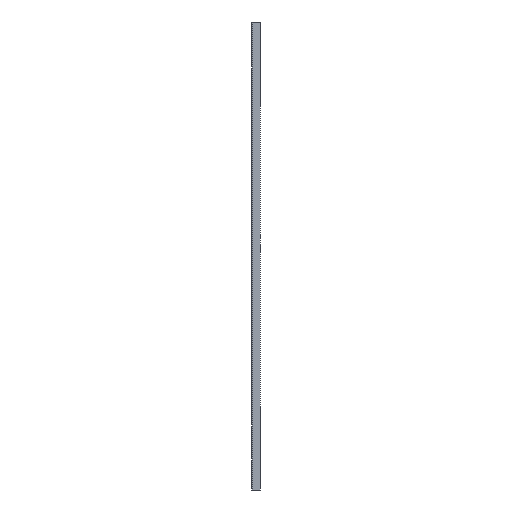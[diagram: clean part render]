
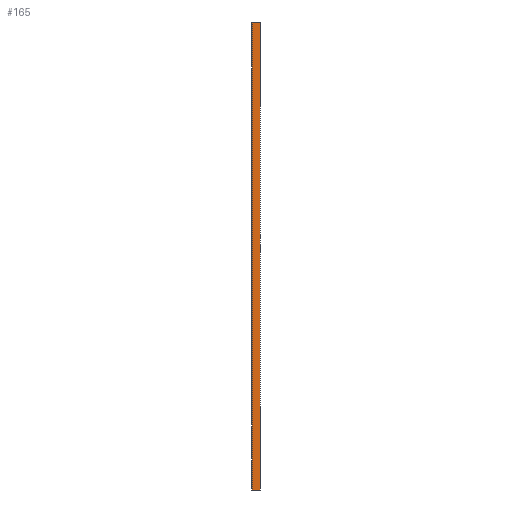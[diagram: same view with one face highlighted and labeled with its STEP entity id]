
A CAD part, left-side view. The second image highlights one B-rep face of the part: STEP entity #165.
In plain terms, the highlighted planar face has unit normal (-1, 0, 0).
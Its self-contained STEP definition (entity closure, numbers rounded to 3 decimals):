
#8 = DIRECTION ( 'NONE',  ( 0., 0., 1. ) ) ;
#12 = VECTOR ( 'NONE', #44, 1000. ) ;
#32 = VECTOR ( 'NONE', #1089, 1000. ) ;
#36 = AXIS2_PLACEMENT_3D ( 'NONE', #951, #788, #8 ) ;
#44 = DIRECTION ( 'NONE',  ( 0., 0., 1. ) ) ;
#47 = LINE ( 'NONE', #741, #32 ) ;
#66 = CARTESIAN_POINT ( 'NONE',  ( -728., -17., 40. ) ) ;
#152 = VECTOR ( 'NONE', #976, 1000. ) ;
#165 = ADVANCED_FACE ( 'NONE', ( #261 ), #441, .T. ) ;
#170 = ORIENTED_EDGE ( 'NONE', *, *, #904, .T. ) ;
#218 = LINE ( 'NONE', #223, #12 ) ;
#223 = CARTESIAN_POINT ( 'NONE',  ( -728., -17., -894. ) ) ;
#227 = CARTESIAN_POINT ( 'NONE',  ( -728., -17., -894. ) ) ;
#244 = VECTOR ( 'NONE', #314, 1000. ) ;
#261 = FACE_OUTER_BOUND ( 'NONE', #293, .T. ) ;
#293 = EDGE_LOOP ( 'NONE', ( #305, #914, #408, #170 ) ) ;
#300 = CARTESIAN_POINT ( 'NONE',  ( -728., 0., -894. ) ) ;
#305 = ORIENTED_EDGE ( 'NONE', *, *, #781, .F. ) ;
#314 = DIRECTION ( 'NONE',  ( 0., 1., 0. ) ) ;
#315 = VERTEX_POINT ( 'NONE', #227 ) ;
#340 = CARTESIAN_POINT ( 'NONE',  ( -728., 0., 40. ) ) ;
#382 = CARTESIAN_POINT ( 'NONE',  ( -728., -17., -894. ) ) ;
#408 = ORIENTED_EDGE ( 'NONE', *, *, #1053, .T. ) ;
#441 = PLANE ( 'NONE',  #36 ) ;
#741 = CARTESIAN_POINT ( 'NONE',  ( -728., -17., 40. ) ) ;
#776 = LINE ( 'NONE', #792, #152 ) ;
#781 = EDGE_CURVE ( 'NONE', #860, #934, #776, .T. ) ;
#788 = DIRECTION ( 'NONE',  ( -1., 0., 0. ) ) ;
#792 = CARTESIAN_POINT ( 'NONE',  ( -728., 0., -894. ) ) ;
#835 = EDGE_CURVE ( 'NONE', #315, #860, #903, .T. ) ;
#860 = VERTEX_POINT ( 'NONE', #300 ) ;
#903 = LINE ( 'NONE', #382, #244 ) ;
#904 = EDGE_CURVE ( 'NONE', #1004, #934, #47, .T. ) ;
#914 = ORIENTED_EDGE ( 'NONE', *, *, #835, .F. ) ;
#934 = VERTEX_POINT ( 'NONE', #340 ) ;
#951 = CARTESIAN_POINT ( 'NONE',  ( -728., -17., -894. ) ) ;
#976 = DIRECTION ( 'NONE',  ( 0., 0., 1. ) ) ;
#1004 = VERTEX_POINT ( 'NONE', #66 ) ;
#1053 = EDGE_CURVE ( 'NONE', #315, #1004, #218, .T. ) ;
#1089 = DIRECTION ( 'NONE',  ( 0., 1., 0. ) ) ;
